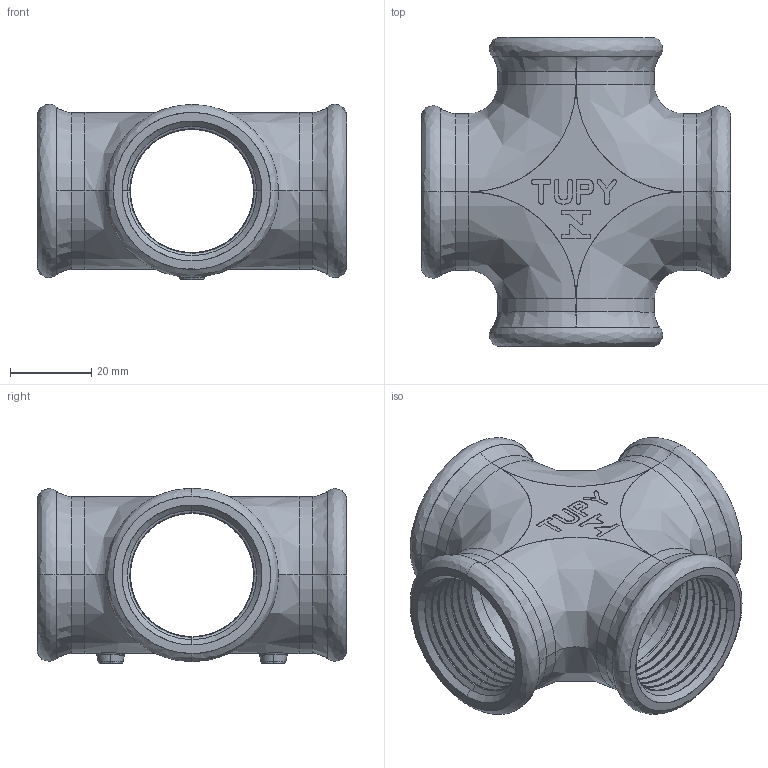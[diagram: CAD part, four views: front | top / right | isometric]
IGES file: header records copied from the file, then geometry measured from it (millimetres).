
Start section: SolidWorks IGES file using analytic representation for surfaces
Global section: file name: C:\Users\Joel Rosa\Desktop\Tubulação\12-18-OK\12-18-007.IGS; native system: SolidWorks 2011; preprocessor: SolidWorks 2011; author: Joel Rosa; date: 121207.003259; units: millimetre
Bounding box: 76 x 76 x 43.1 mm (x, y, z)
Surface area: 30786.2 mm2 (no closed solid volume)
Topology: 0 solids, 0 shells, 469 faces, 3877 edges, 3877 vertices
Faces by surface type: bspline 311, revolution 158
